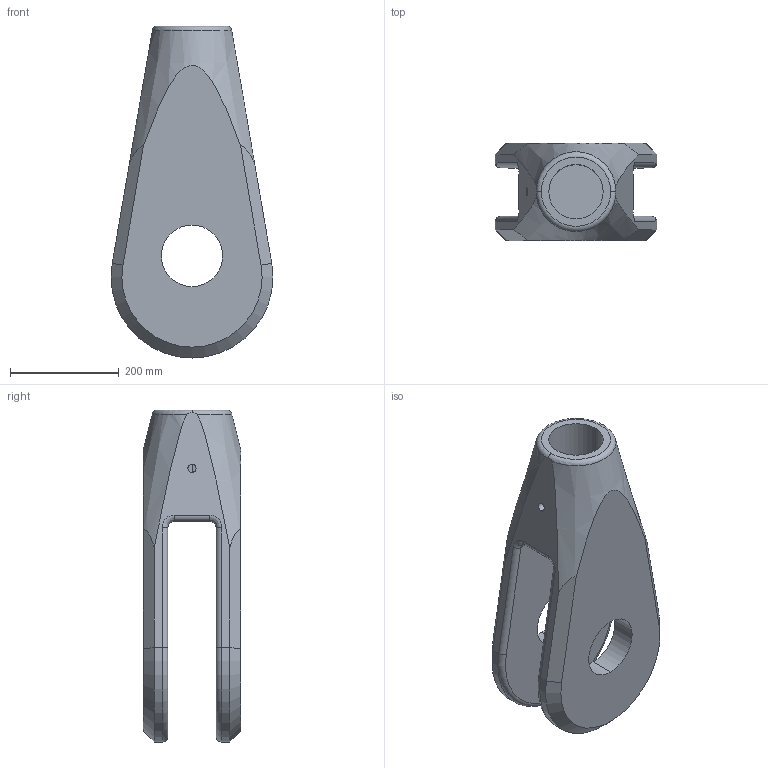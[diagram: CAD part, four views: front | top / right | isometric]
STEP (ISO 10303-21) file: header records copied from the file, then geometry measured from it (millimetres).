
FILE_DESCRIPTION (( 'STEP AP203' ), '1' );
FILE_NAME ('Gabelkopf M100.STEP', '2018-02-20T06:41:45', ( 'install' ), ( 'Hewlett-Packard Company' ), 'SwSTEP 2.0', 'SolidWorks 2017', '' );
FILE_SCHEMA (( 'CONFIG_CONTROL_DESIGN' ));
Length unit declared in the file: millimetre
Products named in the file (1): Gabelkopf M100
Bounding box: 298 x 179.2 x 611 mm (x, y, z)
Volume: 11825299.7 mm3; surface area: 673189.3 mm2
Topology: 1 solids, 1 shells, 47 faces, 115 edges, 70 vertices
Faces by surface type: cylinder 20, plane 13, cone 5, torus 5, bspline 4
Entity records: 2119 total; most frequent: CARTESIAN_POINT 967, ORIENTED_EDGE 230, DIRECTION 222, EDGE_CURVE 115, AXIS2_PLACEMENT_3D 89, VERTEX_POINT 70, EDGE_LOOP 53, FACE_OUTER_BOUND 47
